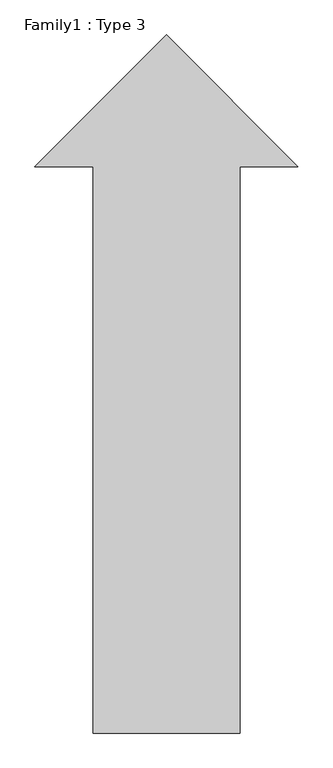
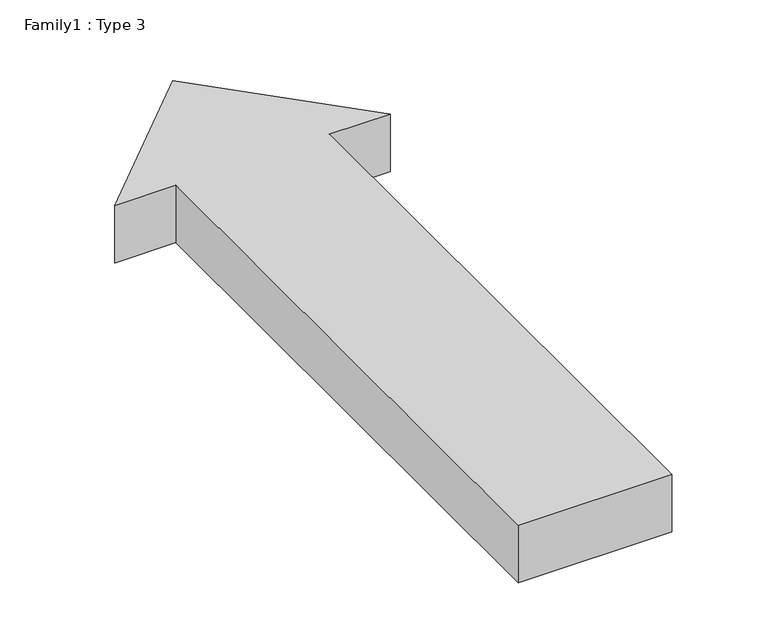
"""IFC4 building model written with IfcOpenShell, lengths in millimetres: furniture geometry, Family1 : Type 3."""

from ifc_helpers import new_model, si_unit, origin, origin_with_axes, place, context, project, spatial, polyline, outline, extrude, source, transform, mapped, element, save


def family1_type_3_7370d24d(model_context):
    return source(origin(), model_context, "Body", "SweptSolid", [
        extrude(outline(polyline([(226.27417, -226.27417), (126.27417, -226.27417), (126.27417, -1200.0), (-126.27417, -1200.0), (-126.27417, -226.27417), (-226.27417, -226.27417), (0.0, 0.0), (226.27417, -226.27417)])), origin_with_axes(), (0.0, 0.0, 1.0), 100.0),
    ])


if __name__ == "__main__":
    model = new_model("IFC4")
    model_context = context("Model", 3, world=origin())
    ifc_project = project(units=[si_unit("LENGTHUNIT", "METRE", prefix="MILLI")], contexts=[model_context])
    site = spatial("IfcSite", under=ifc_project)
    building = spatial("IfcBuilding", under=site)
    placement = place(None, origin())
    family1_type_3_shape = family1_type_3_7370d24d(model_context)
    element("IfcFurniture", 1, ObjectType="Family1 : Type 3", at=placement, inside=building, context=model_context, shape_type="MappedRepresentation", body=[
        mapped(family1_type_3_shape, transform((0.0, 0.0, 0.0), x_axis=(1.0, 0.0, 0.0), y_axis=(0.0, 1.0, 0.0), z_axis=(0.0, 0.0, 1.0))),
    ])
    save(model, "model.ifc")
